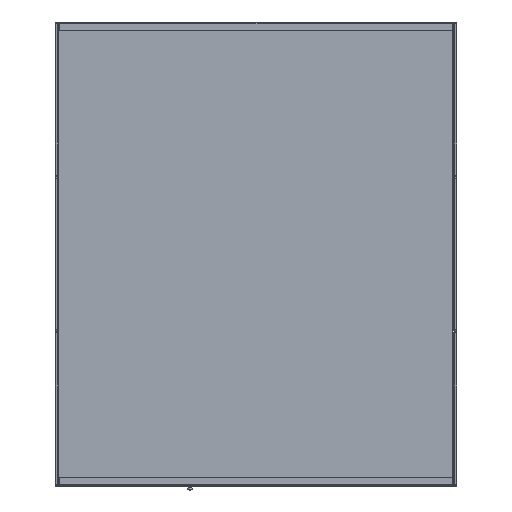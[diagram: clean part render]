
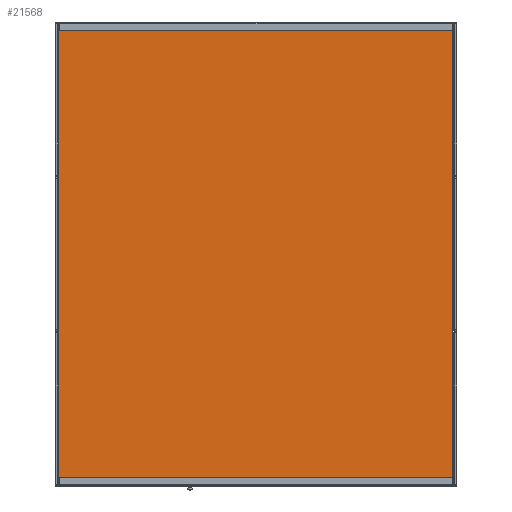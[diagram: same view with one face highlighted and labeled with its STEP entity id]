
A CAD part, top view. The second image highlights one B-rep face of the part: STEP entity #21568.
In plain terms, the highlighted planar face has unit normal (0, 0, 1).
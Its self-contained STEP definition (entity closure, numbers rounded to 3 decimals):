
#2575=FACE_OUTER_BOUND('',#3918,.T.);
#3918=EDGE_LOOP('',(#14607,#14608,#14609,#14610));
#5378=LINE('',#32206,#7443);
#5382=LINE('',#32214,#7447);
#5383=LINE('',#32216,#7448);
#5384=LINE('',#32217,#7449);
#7443=VECTOR('',#25728,10.);
#7447=VECTOR('',#25734,10.);
#7448=VECTOR('',#25735,10.);
#7449=VECTOR('',#25736,10.);
#9504=VERTEX_POINT('',#32204);
#9505=VERTEX_POINT('',#32205);
#9508=VERTEX_POINT('',#32213);
#9509=VERTEX_POINT('',#32215);
#11482=EDGE_CURVE('',#9504,#9505,#5378,.T.);
#11486=EDGE_CURVE('',#9508,#9505,#5382,.T.);
#11487=EDGE_CURVE('',#9509,#9508,#5383,.T.);
#11488=EDGE_CURVE('',#9504,#9509,#5384,.T.);
#14607=ORIENTED_EDGE('',*,*,#11482,.T.);
#14608=ORIENTED_EDGE('',*,*,#11486,.F.);
#14609=ORIENTED_EDGE('',*,*,#11487,.F.);
#14610=ORIENTED_EDGE('',*,*,#11488,.F.);
#20804=PLANE('',#23495);
#21568=ADVANCED_FACE('',(#2575),#20804,.T.);
#23495=AXIS2_PLACEMENT_3D('',#32212,#25732,#25733);
#25728=DIRECTION('',(-1.,0.,0.));
#25732=DIRECTION('center_axis',(0.,0.,1.));
#25733=DIRECTION('ref_axis',(-1.,0.,0.));
#25734=DIRECTION('',(0.,1.,0.));
#25735=DIRECTION('',(-1.,0.,0.));
#25736=DIRECTION('',(0.,-1.,0.));
#32204=CARTESIAN_POINT('',(2600.,1993.,2263.));
#32205=CARTESIAN_POINT('',(-30.,1993.,2263.));
#32206=CARTESIAN_POINT('',(650.,1993.,2263.));
#32212=CARTESIAN_POINT('Origin',(1300.,1020.,2263.));
#32213=CARTESIAN_POINT('',(-30.,-985.,2263.));
#32214=CARTESIAN_POINT('',(-30.,45.,2263.));
#32215=CARTESIAN_POINT('',(2600.,-985.,2263.));
#32216=CARTESIAN_POINT('',(2600.,-985.,2263.));
#32217=CARTESIAN_POINT('',(2600.,1995.,2263.));
